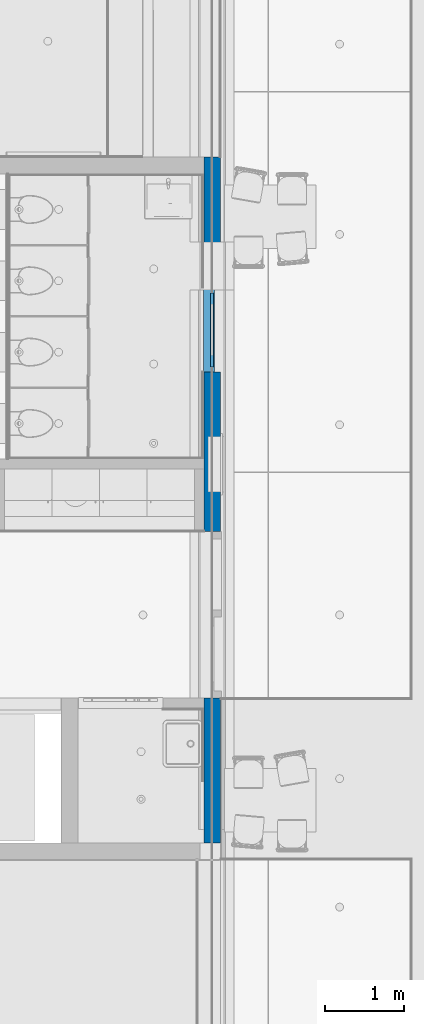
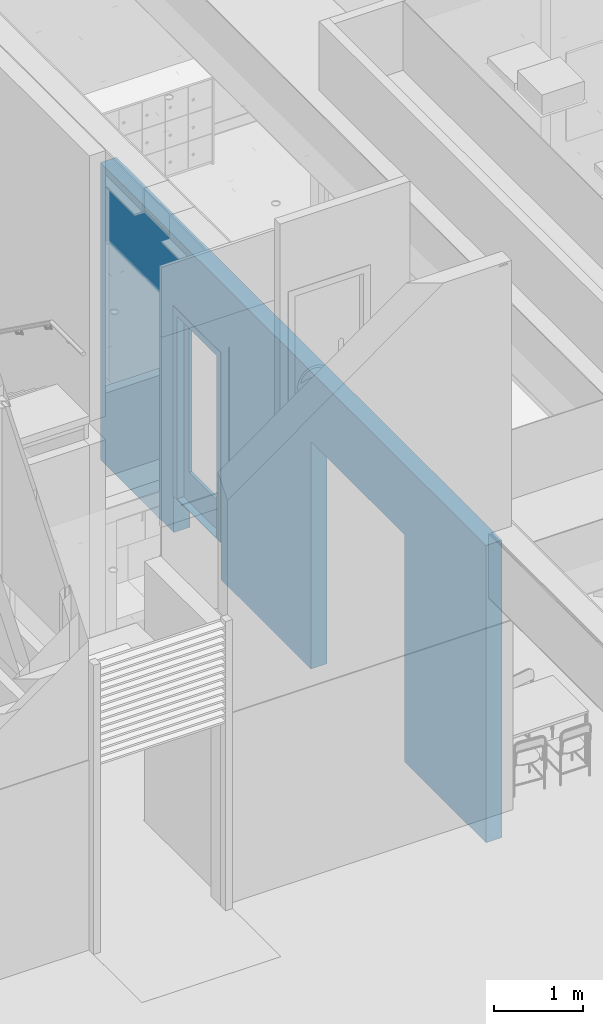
# One storey, part 76 of 347: 2 building element parts, 1 wall, 2 openings, 1 element without a shape of its own.
"""IFC2X3 building model written with IfcOpenShell, lengths in millimetres."""

from ifc_helpers import new_model, entity, si_unit, converted_unit, derived_unit, money_unit, direction, frame, origin_with_axes, place, context, subcontext, project, spatial, faceted_brep, material, type_object, element, fill, aggregate, save


model = new_model("IFC2X3")

# Units and contexts
model_context = context("Model", 3, precision=0.01, world=origin_with_axes(), true_north=direction((0.0, 1.0)))
plan_context = context("Plan", 3, precision=0.01, world=origin_with_axes(), true_north=direction((0.0, 1.0)))
body_context = subcontext(model_context, "Body", "Model", "MODEL_VIEW")
ifc_project = project(units=[si_unit("LENGTHUNIT", "METRE", prefix="MILLI"), si_unit("AREAUNIT", "SQUARE_METRE"), si_unit("VOLUMEUNIT", "CUBIC_METRE"), converted_unit("PLANEANGLEUNIT", "DEGREE", entity("IfcPlaneAngleMeasure", 0.0174532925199), si_unit("PLANEANGLEUNIT", "RADIAN"), dimensions=[0, 0, 0, 0, 0, 0, 0]), money_unit("EUR"), converted_unit("TIMEUNIT", "Year", entity("IfcTimeMeasure", 31556926.0), si_unit("TIMEUNIT", "SECOND"), dimensions=[0, 0, 1, 0, 0, 0, 0]), si_unit("MASSUNIT", "GRAM", prefix="KILO"), si_unit("THERMODYNAMICTEMPERATUREUNIT", "DEGREE_CELSIUS"), si_unit("LUMINOUSINTENSITYUNIT", "LUMEN"), si_unit("ENERGYUNIT", "JOULE", prefix="MEGA"), derived_unit("THERMALCONDUCTANCEUNIT", [(si_unit("POWERUNIT", "WATT"), 1), (si_unit("LENGTHUNIT", "METRE"), -1), (si_unit("THERMODYNAMICTEMPERATUREUNIT", "KELVIN"), -1)]), derived_unit("SPECIFICHEATCAPACITYUNIT", [(si_unit("ENERGYUNIT", "JOULE"), 1), (si_unit("MASSUNIT", "GRAM", prefix="KILO"), -1), (si_unit("THERMODYNAMICTEMPERATUREUNIT", "KELVIN"), -1)]), derived_unit("MASSDENSITYUNIT", [(si_unit("MASSUNIT", "GRAM", prefix="KILO"), 1), (si_unit("VOLUMEUNIT", "CUBIC_METRE"), -1)])], contexts=[model_context, plan_context])

# Site, building, storey
site_placement = place(None, origin_with_axes())
site = spatial("IfcSite", under=ifc_project, at=site_placement, Name="Site", CompositionType="ELEMENT")
building_placement = place(site_placement, origin_with_axes())
building = spatial("IfcBuilding", under=site, at=building_placement, Name="Naam gebouw", CompositionType="ELEMENT")
storey_placement = place(building_placement, origin_with_axes())
storey = spatial("IfcBuildingStorey", under=building, at=storey_placement, Name="begane grond", CompositionType="ELEMENT", Elevation=0.0)

# Wall, openings, door, building element parts
ifc_material_1 = material(Name="Beton gewapend prefab wand")
wall_type = type_object("IfcWallType", Name="Betonwand 200 210", PredefinedType="NOTDEFINED")
wall_placement = place(storey_placement, frame((44445.0, 25940.0, -510.0), z_axis=(0.0, 0.0, 1.0), x_axis=(0.0, 1.0, 0.0)))
wall = element("IfcWall", 1, at=wall_placement, inside=storey, type_object=wall_type, material=ifc_material_1, Name="21_21 betonwand", context=body_context, shape_type="Brep", body=[
    faceted_brep([(2034.9998617, -210.0, 440.0), (2034.9998617, -210.0, 3110.0), (4134.99978935, -210.0, 3110.0), (4134.99978935, -210.0, 440.0), (4134.99992765, -210.0, 0.0), (6149.99992765, -210.0, 0.0), (6149.99992765, -210.0, 440.0), (6149.99992765, -210.0, 3110.0), (7213.99992765, -210.0, 3110.0), (7213.99992765, -210.0, 440.0), (7213.99992765, -210.0, 0.0), (8860.0, -210.0, 0.0), (8860.0, -210.0, 4070.0), (210.0, -210.0, 4070.0), (210.0, -210.0, 0.0), (2035.0, -210.0, 0.0), (2034.9998617, 0.0, 440.0), (2034.9998617, 0.0, 3110.0), (4134.99978935, 0.0, 3110.0), (4134.99978935, 0.0, 440.0), (4134.99992765, 0.0, 0.0), (6149.99992765, 0.0, 0.0), (6149.99992765, 0.0, 440.0), (6149.99992765, -130.0, 440.0), (6149.99992765, 0.0, 3110.0), (7213.99992765, 0.0, 3110.0), (7213.99992765, 0.0, 440.0), (7213.99992765, -130.0, 440.0), (7213.99992765, 0.0, 0.0), (8860.0, 0.0, 0.0), (8860.0, 0.0, 4070.0), (210.0, 0.0, 4070.0), (210.0, 0.0, 0.0), (2035.0, 0.0, 0.0)], [[[0, 1, 2, 3, 4, 5, 6, 7, 8, 9, 10, 11, 12, 13, 14, 15]], [[1, 0, 16, 17]], [[2, 1, 17, 18]], [[3, 2, 18, 19]], [[3, 19, 20, 4]], [[4, 20, 21, 5]], [[6, 5, 21, 22, 23]], [[24, 7, 6, 23, 22]], [[24, 25, 8, 7]], [[26, 27, 9, 8, 25]], [[28, 10, 9, 27, 26]], [[29, 11, 10, 28]], [[11, 29, 30, 12]], [[31, 13, 12, 30]], [[31, 32, 14, 13]], [[14, 32, 33, 15]], [[16, 0, 15, 33]], [[17, 16, 33, 32, 31, 30, 29, 28, 26, 25, 24, 22, 21, 20, 19, 18]]]),
])
opening_1_placement = place(wall_placement, frame((6681.99992765, 0.0, 510.0), z_axis=(0.0, 0.0, 1.0), x_axis=(1.0, 0.0, 0.0)))
opening_1 = element("IfcOpeningElement", 2, at=opening_1_placement, cuts=wall, Name="32_02.04", context=body_context, shape_type="Brep", body=[
    faceted_brep([(-532.0, 210.0, 2600.0), (-532.0, 210.0, -450.0), (-532.0, -130.0, -450.0), (-532.0, -130.0, 2600.0), (532.0, 210.0, 2600.0), (532.0, 210.0, -450.0), (532.0, -130.0, -450.0), (532.0, -130.0, 2600.0)], [[[0, 1, 2, 3]], [[0, 4, 5, 1]], [[1, 5, 6, 2]], [[3, 2, 6, 7]], [[4, 0, 3, 7]], [[5, 4, 7, 6]]]),
    faceted_brep([(-532.0, -420.0, -450.0), (-532.0, -420.0, 2600.0), (-532.0, -130.0, 2600.0), (-532.0, -130.0, -450.0), (532.0, -420.0, -450.0), (532.0, -420.0, 2600.0), (532.0, -130.0, 2600.0), (532.0, -130.0, -450.0)], [[[0, 1, 2, 3]], [[0, 4, 5, 1]], [[1, 5, 6, 2]], [[3, 2, 6, 7]], [[4, 0, 3, 7]], [[5, 4, 7, 6]]]),
])
opening_2_placement = place(wall_placement, frame((3084.99982553, 0.0, 510.0), z_axis=(0.0, 0.0, 1.0), x_axis=(1.0, 0.0, 0.0)))
element("IfcOpeningElement", 3, at=opening_2_placement, cuts=wall, Name="32_03.03", context=body_context, shape_type="Brep", body=[
    faceted_brep([(-1049.99996383, -432.0, -450.0), (-1049.99996383, -432.0, 2600.0), (-1049.99996383, 210.0, 2600.0), (-1049.99996383, 210.0, -450.0), (1049.99996383, -432.0, -450.0), (1049.99996383, -432.0, 2600.0), (1049.99996383, 210.0, 2600.0), (1049.99996383, 210.0, -450.0)], [[[0, 1, 2, 3]], [[0, 4, 5, 1]], [[1, 5, 6, 2]], [[3, 2, 6, 7]], [[4, 0, 3, 7]], [[5, 4, 7, 6]]]),
])
door_style = type_object("IfcDoorStyle", Name="D1 25", ConstructionType="NOTDEFINED", OperationType="SINGLE_SWING_RIGHT", ParameterTakesPrecedence=False, Sizeable=False)
door_placement = place(opening_1_placement, frame((532.0, 0.0, 0.0), z_axis=(0.0, 0.0, 1.0), x_axis=(-1.0, 0.0, 0.0)))
door = element("IfcDoor", 4, at=door_placement, inside=storey, type_object=door_style, Name="32_02.04", ObjectType="DOOR", OverallHeight=2600.0, OverallWidth=1064.0)
fill(opening_1, door)
building_element_part_1_placement = place(door_placement, origin_with_axes())
building_element_part_1 = element("IfcBuildingElementPart", 5, at=building_element_part_1_placement, context=body_context, shape_type="Brep", body=[
    faceted_brep([(65.0, 90.0, 10.0), (90.0, 90.0, 10.0), (90.0, -9.0, 10.0), (974.0, -9.0, 10.0), (974.0, 90.0, 10.0), (999.0, 90.0, 10.0), (999.0, 130.0, 10.0), (65.0, 130.0, 10.0), (65.0, 90.0, 0.0), (90.0, 90.0, 0.0), (90.0, -9.0, 0.0), (974.0, -9.0, 0.0), (974.0, 90.0, 0.0), (999.0, 90.0, 0.0), (999.0, 130.0, 0.0), (65.0, 130.0, 0.0)], [[[0, 1, 2, 3, 4, 5, 6, 7]], [[1, 0, 8, 9]], [[10, 2, 1, 9]], [[2, 10, 11, 3]], [[3, 11, 12, 4]], [[5, 4, 12, 13]], [[13, 14, 6, 5]], [[15, 7, 6, 14]], [[8, 0, 7, 15]], [[9, 8, 15, 14, 13, 12, 11, 10]]]),
    faceted_brep([(90.0, 80.0, 0.0), (90.0, 80.0, 2510.0), (90.0, -9.0, 2510.0), (90.0, -9.0, 0.0), (65.0, 80.0, 2510.0), (65.0, 80.0, 0.0), (65.0, 130.0, 2510.0), (0.0, 130.0, 2510.0), (0.0, -9.0, 2510.0), (0.0, -9.0, 0.0), (0.0, 130.0, 0.0), (65.0, 130.0, 0.0)], [[[0, 1, 2, 3]], [[4, 1, 0, 5]], [[4, 6, 7, 8, 2, 1]], [[3, 2, 8, 9]], [[5, 0, 3, 9, 10, 11]], [[6, 4, 5, 11]], [[6, 11, 10, 7]], [[10, 9, 8, 7]]]),
    faceted_brep([(999.0, 80.0, 2510.0), (974.0, 80.0, 2510.0), (974.0, -9.0, 2510.0), (1064.0, -9.0, 2510.0), (1064.0, 130.0, 2510.0), (999.0, 130.0, 2510.0), (999.0, 80.0, 0.0), (974.0, 80.0, 0.0), (974.0, -9.0, 0.0), (1064.0, -9.0, 0.0), (1064.0, 130.0, 0.0), (999.0, 130.0, 0.0)], [[[0, 1, 2, 3, 4, 5]], [[1, 0, 6, 7]], [[1, 7, 8, 2]], [[3, 2, 8, 9]], [[4, 3, 9, 10]], [[11, 5, 4, 10]], [[0, 5, 11, 6]], [[6, 11, 10, 9, 8, 7]]]),
    faceted_brep([(65.0, 130.0, 2535.0), (65.0, 130.0, 2510.0), (0.0, 130.0, 2510.0), (0.0, 130.0, 2600.0), (1064.0, 130.0, 2600.0), (1064.0, 130.0, 2510.0), (999.0, 130.0, 2510.0), (999.0, 130.0, 2535.0), (65.0, 80.0, 2535.0), (65.0, 80.0, 2510.0), (90.0, 80.0, 2510.0), (90.0, -9.0, 2510.0), (0.0, -9.0, 2510.0), (0.0, -9.0, 2600.0), (1064.0, -9.0, 2600.0), (1064.0, -9.0, 2510.0), (999.0, 80.0, 2510.0), (974.0, -9.0, 2510.0), (974.0, 80.0, 2510.0), (999.0, 80.0, 2535.0)], [[[0, 1, 2, 3, 4, 5, 6, 7]], [[1, 0, 8, 9]], [[9, 10, 11, 12, 2, 1]], [[2, 12, 13, 3]], [[3, 13, 14, 4]], [[4, 14, 15, 5]], [[16, 6, 5, 15, 17, 18]], [[7, 6, 16, 19]], [[0, 7, 19, 8]], [[16, 18, 10, 9, 8, 19]], [[10, 18, 17, 11]], [[17, 15, 14, 13, 12, 11]]]),
])
ifc_material_2 = material(Name="Hout C")
building_element_part_2_placement = place(door_placement, origin_with_axes())
building_element_part_2 = element("IfcBuildingElementPart", 6, at=building_element_part_2_placement, material=ifc_material_2, Name="Hout C", context=body_context, shape_type="Brep", body=[
    faceted_brep([(999.0, 120.0, 10.0), (999.0, 80.0, 10.0), (65.0, 80.0, 10.0), (65.0, 120.0, 10.0), (999.0, 120.0, 2535.0), (999.0, 80.0, 2535.0), (65.0, 80.0, 2535.0), (205.602150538, 80.0, 2394.16334661), (858.397849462, 80.0, 2394.16334661), (858.397849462, 80.0, 412.390438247), (205.602150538, 80.0, 412.390438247), (65.0, 120.0, 2535.0), (205.602150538, 120.0, 2394.16334661), (205.602150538, 120.0, 412.390438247), (858.397849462, 120.0, 412.390438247), (858.397849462, 120.0, 2394.16334661)], [[[0, 1, 2, 3]], [[4, 5, 1, 0]], [[1, 5, 6, 2], [7, 8, 9, 10]], [[3, 2, 6, 11]], [[0, 3, 11, 4], [12, 13, 14, 15]], [[11, 6, 5, 4]], [[15, 8, 7, 12]], [[14, 9, 8, 15]], [[13, 10, 9, 14]], [[12, 7, 10, 13]]]),
])
aggregate(door, [building_element_part_1, building_element_part_2])

save(model, "model.ifc")
